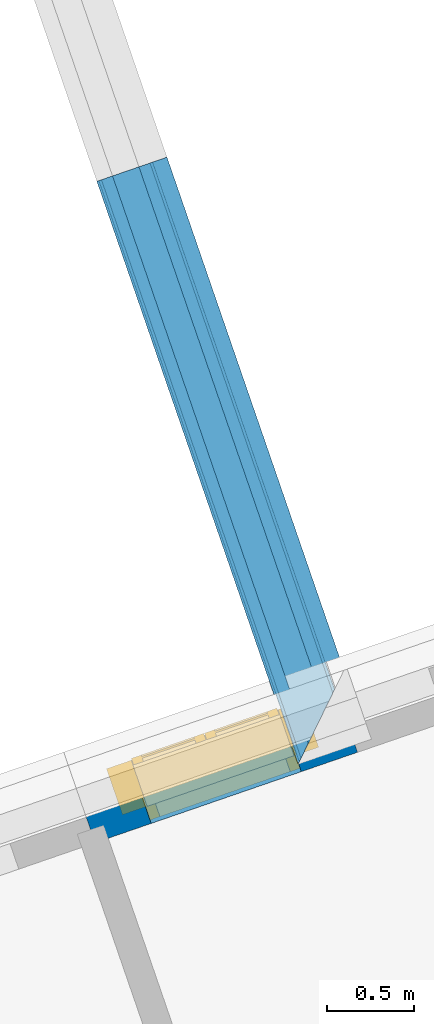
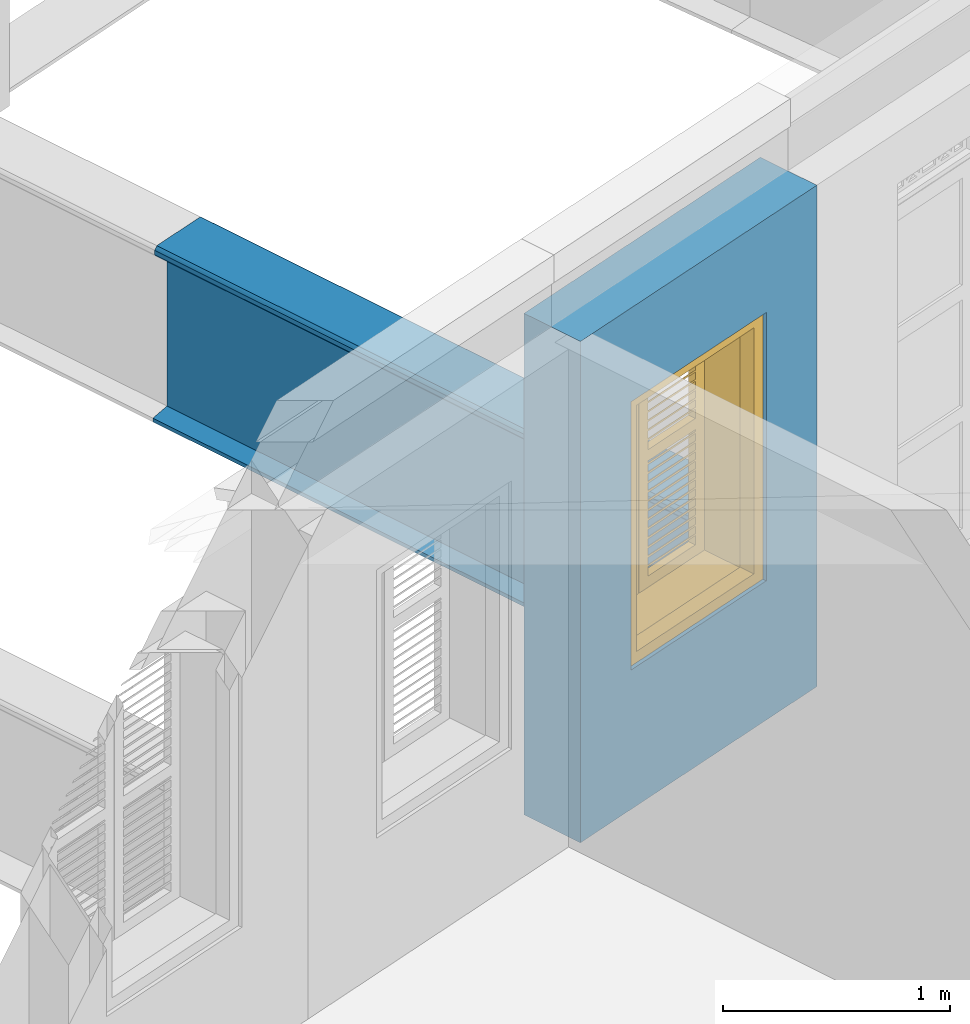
# One storey, part 6 of 16: 4 walls, 1 window, 1 opening.
"""IFC4 building model written with IfcOpenShell, lengths in metres."""

import ifcopenshell
import ifcopenshell.guid

model = None  # the IFC model being written
_history = None  # IfcOwnerHistory: only IFC2X3 demands one
_inside = {}  # id of a spatial element -> (the spatial element, [elements in it])
_under = {}  # id of a project, library or spatial element -> (it, [spatial elements below it])
_declared = {}  # id of a project -> (the project, [libraries it declares])
_typed = {}  # id of a type object -> (the type object, [elements of that type])
_made_of = {}  # id of a material, layer set ... -> (it, [elements and type objects made of it])


def new_model(schema):
    """Start an empty IFC model of exactly this schema.

    Asked for "IFC4X3", IfcOpenShell would pick the latest addendum, in which some entities
    have other attributes; the version numbers below select the first issue.
    IFC2X3 requires an IfcOwnerHistory on every rooted entity: one is made here for all.
    """
    global model, _history
    if schema == "IFC4X3":
        model = ifcopenshell.file(schema_version=(4, 3, 0, 0))
    else:
        model = ifcopenshell.file(schema=schema)
    _inside.clear()
    _under.clear()
    _declared.clear()
    _typed.clear()
    _made_of.clear()
    _history = None
    if model.schema == "IFC2X3":
        org = make("IfcOrganization", Name="unknown")
        user = make(
            "IfcPersonAndOrganization",
            ThePerson=make("IfcPerson", FamilyName="unknown"),
            TheOrganization=org,
        )
        app = make(
            "IfcApplication",
            ApplicationDeveloper=org,
            Version="unknown",
            ApplicationFullName="unknown",
            ApplicationIdentifier="unknown",
        )
        _history = make(
            "IfcOwnerHistory",
            OwningUser=user,
            OwningApplication=app,
            ChangeAction="ADDED",
            CreationDate=0,
        )
    return model


def make(cls, **values):
    """One entity of the class cls with the attributes given. An attribute that is None is left unset."""
    return model.create_entity(
        cls, **{name: value for name, value in values.items() if value is not None}
    )


def rooted(cls, **values):
    """An entity with a GlobalId (a new one), such as an element, a storey or a relation."""
    return make(cls, GlobalId=ifcopenshell.guid.new(), OwnerHistory=_history, **values)


def si_unit(unit_type, name, prefix=None):
    """IfcSIUnit, for example si_unit("LENGTHUNIT", "METRE", prefix="MILLI")."""
    return make("IfcSIUnit", UnitType=unit_type, Prefix=prefix, Name=name)


def assignment(units):
    """IfcUnitAssignment: the units of a project."""
    return None if units is None else make("IfcUnitAssignment", Units=units)


def point(xyz):
    """IfcCartesianPoint."""
    return None if xyz is None else make("IfcCartesianPoint", Coordinates=xyz)


def direction(xyz):
    """IfcDirection."""
    return None if xyz is None else make("IfcDirection", DirectionRatios=xyz)


def frame(location, z_axis=None, x_axis=None):
    """IfcAxis2Placement3D, a coordinate frame: its origin and axes. An axis left out is left unset."""
    return make(
        "IfcAxis2Placement3D",
        Location=point(location),
        Axis=direction(z_axis),
        RefDirection=direction(x_axis),
    )


def origin():
    """The frame at (0, 0, 0) with its axes left unset."""
    return frame((0.0, 0.0, 0.0))


def origin_with_axes():
    """The frame at (0, 0, 0) with the z axis (0, 0, 1) and the x axis (1, 0, 0) written out."""
    return frame((0.0, 0.0, 0.0), z_axis=(0.0, 0.0, 1.0), x_axis=(1.0, 0.0, 0.0))


def place(relative_to, where):
    """IfcLocalPlacement: puts the frame where relative to a parent placement (None: the world)."""
    return make(
        "IfcLocalPlacement", PlacementRelTo=relative_to, RelativePlacement=where
    )


def context(
    kind, dimensions, precision=None, world=None, true_north=None, identifier=None
):
    """IfcGeometricRepresentationContext, for example the 3D "Model" context."""
    return make(
        "IfcGeometricRepresentationContext",
        ContextIdentifier=identifier,
        ContextType=kind,
        CoordinateSpaceDimension=dimensions,
        Precision=precision,
        WorldCoordinateSystem=world,
        TrueNorth=true_north,
    )


def subcontext(parent, identifier, kind, view, scale=None):
    """IfcGeometricRepresentationSubContext, for example "Body" below "Model"."""
    return make(
        "IfcGeometricRepresentationSubContext",
        ContextIdentifier=identifier,
        ContextType=kind,
        ParentContext=parent,
        TargetScale=scale,
        TargetView=view,
    )


def project(units=None, contexts=None):
    """IfcProject with its units and contexts."""
    return rooted(
        "IfcProject",
        Name="project",
        RepresentationContexts=contexts,
        UnitsInContext=assignment(units),
    )


def spatial(cls, under=None, at=None, **own):
    """A site, building, storey or space (cls), placed at a placement, below another one or the project."""
    s = rooted(cls, ObjectPlacement=at, **own)
    if under is not None:
        _under.setdefault(under.id(), (under, []))[1].append(s)
    return s


def polyline(points):
    """IfcPolyline through the points."""
    return make("IfcPolyline", Points=[point(p) for p in points])


def outline(outer, holes=None, kind="AREA"):
    """IfcArbitraryClosedProfileDef: a profile drawn as a closed curve; with holes, ...WithVoids."""
    if holes is None:
        return make("IfcArbitraryClosedProfileDef", ProfileType=kind, OuterCurve=outer)
    return make(
        "IfcArbitraryProfileDefWithVoids",
        ProfileType=kind,
        OuterCurve=outer,
        InnerCurves=holes,
    )


def extrude(swept, where, along, depth):
    """IfcExtrudedAreaSolid: the profile swept, set in the frame where, extruded along a direction by depth."""
    return make(
        "IfcExtrudedAreaSolid",
        SweptArea=swept,
        Position=where,
        ExtrudedDirection=direction(along),
        Depth=depth,
    )


def clip(a, b, op="DIFFERENCE"):
    """IfcBooleanClippingResult: the solid a cut by the half space b."""
    return make(
        "IfcBooleanClippingResult", Operator=op, FirstOperand=a, SecondOperand=b
    )


def halfspace(plane, agree):
    """IfcHalfSpaceSolid: all space on one side of the plane z = 0 of the frame plane."""
    return make(
        "IfcHalfSpaceSolid",
        BaseSurface=make("IfcPlane", Position=plane),
        AgreementFlag=agree,
    )


def faces_of(points, faces, orient=None, outer=None):
    """IfcFace entities. A face is a list of loops; a loop is a list of indices into points, from 0.

    orient and outer hold one flag for each loop. By default every Orientation is true, the
    first loop of a face is its IfcFaceOuterBound and the others are IfcFaceBound.
    """
    made = []
    for i, loops in enumerate(faces):
        bounds = []
        for j, loop in enumerate(loops):
            is_outer = j == 0 if outer is None else outer[i][j]
            bounds.append(
                make(
                    "IfcFaceOuterBound" if is_outer else "IfcFaceBound",
                    Bound=make("IfcPolyLoop", Polygon=[points[k] for k in loop]),
                    Orientation=True if orient is None else orient[i][j],
                )
            )
        made.append(make("IfcFace", Bounds=bounds))
    return made


def faceted_brep(points, faces, orient=None, outer=None, voids=None):
    """IfcFacetedBrep: a solid bounded by flat faces; with voids (closed shells), ...WithVoids."""
    shared = [point(p) for p in points]
    hull = make("IfcClosedShell", CfsFaces=faces_of(shared, faces, orient, outer))
    if voids is None:
        return make("IfcFacetedBrep", Outer=hull)
    return make(
        "IfcFacetedBrepWithVoids",
        Outer=hull,
        Voids=[
            make(cls, CfsFaces=faces_of(shared, fs, o, b)) for cls, fs, o, b in voids
        ],
    )


def shape(context_of_items, identifier, shape_type, items):
    """IfcShapeRepresentation: the items that make up one representation, for example the "Body"."""
    return make(
        "IfcShapeRepresentation",
        ContextOfItems=context_of_items,
        RepresentationIdentifier=identifier,
        RepresentationType=shape_type,
        Items=items,
    )


def source(mapping_origin, context_of_items, identifier, shape_type, items):
    """IfcRepresentationMap: a shape defined once, which mapped items show again and again."""
    return make(
        "IfcRepresentationMap",
        MappingOrigin=mapping_origin,
        MappedRepresentation=shape(context_of_items, identifier, shape_type, items),
    )


def transform(
    local_origin,
    x_axis=None,
    y_axis=None,
    z_axis=None,
    scale=None,
    scale2=None,
    scale3=None,
    uniform=True,
):
    """IfcCartesianTransformationOperator3D, or its non-uniform kind. x_axis, y_axis, z_axis: its Axis1, 2, 3."""
    if uniform:
        return make(
            "IfcCartesianTransformationOperator3D",
            Axis1=direction(x_axis),
            Axis2=direction(y_axis),
            LocalOrigin=point(local_origin),
            Scale=scale,
            Axis3=direction(z_axis),
        )
    return make(
        "IfcCartesianTransformationOperator3DnonUniform",
        Axis1=direction(x_axis),
        Axis2=direction(y_axis),
        LocalOrigin=point(local_origin),
        Scale=scale,
        Axis3=direction(z_axis),
        Scale2=scale2,
        Scale3=scale3,
    )


def mapped(mapping_source, mapping_target):
    """IfcMappedItem: shows the shape of a source again, moved by a transform."""
    return make(
        "IfcMappedItem", MappingSource=mapping_source, MappingTarget=mapping_target
    )


def material(Name=None, Category=None):
    """IfcMaterial."""
    return make("IfcMaterial", Name=Name, Category=Category)


def layer(
    of_material, thickness, ventilated=None, Name=None, Category=None, Priority=None
):
    """IfcMaterialLayer: one layer of a wall or slab, of a material (None: an air gap)."""
    return make(
        "IfcMaterialLayer",
        Material=of_material,
        LayerThickness=thickness,
        IsVentilated=ventilated,
        Name=Name,
        Category=Category,
        Priority=Priority,
    )


def layer_set(layers, Name=None):
    """IfcMaterialLayerSet."""
    return make("IfcMaterialLayerSet", MaterialLayers=layers, LayerSetName=Name)


def layer_usage(for_layer_set, set_direction, sense, offset, extent=None):
    """IfcMaterialLayerSetUsage: how a layer set lies in its element."""
    return make(
        "IfcMaterialLayerSetUsage",
        ForLayerSet=for_layer_set,
        LayerSetDirection=set_direction,
        DirectionSense=sense,
        OffsetFromReferenceLine=offset,
        ReferenceExtent=extent,
    )


def material_profile(
    of_material, cross_section, Name=None, Category=None, Priority=None
):
    """IfcMaterialProfile: a cross section and its material."""
    return make(
        "IfcMaterialProfile",
        Name=Name,
        Material=of_material,
        Profile=cross_section,
        Priority=Priority,
        Category=Category,
    )


def profile_set(profiles, Name=None, composite=None):
    """IfcMaterialProfileSet."""
    return make(
        "IfcMaterialProfileSet",
        Name=Name,
        MaterialProfiles=profiles,
        CompositeProfile=composite,
    )


def profile_usage(for_profile_set, cardinal=None, extent=None):
    """IfcMaterialProfileSetUsage: how a profile set lies along its element."""
    return make(
        "IfcMaterialProfileSetUsage",
        ForProfileSet=for_profile_set,
        CardinalPoint=cardinal,
        ReferenceExtent=extent,
    )


def made_of(thing, what):
    """Note that an element or type object is made of a material, layer set ...; save() writes the relation."""
    if what is not None:
        _made_of.setdefault(what.id(), (what, []))[1].append(thing)
    return thing


def type_object(cls, material=None, **own):
    """A type object (cls), such as IfcWallType, which elements share."""
    return made_of(rooted(cls, **own), material)


def type_shapes(of_type, sources):
    """Give a type object the sources (RepresentationMaps) that its elements show as mapped items."""
    of_type.RepresentationMaps = sources


def element(
    cls,
    number,
    at=None,
    inside=None,
    cuts=None,
    type_object=None,
    material=None,
    context=None,
    identifier="Body",
    shape_type=None,
    held_by="IfcProductDefinitionShape",
    body=None,
    shapes=None,
    **own,
):
    """One element of the class cls, such as IfcWall. Its Tag is "e" and its number.

    at: its placement. inside: the storey or other place that contains it. cuts: it is an
    opening in that element (IfcRelVoidsElement). A single representation is given by context,
    identifier, shape_type and body (its items); several are given by shapes. held_by: the class
    of the entity that holds the representations. save() writes the other relations.
    """
    e = rooted(cls, Tag="e%d" % number, ObjectPlacement=at, **own)
    if body is not None:
        shapes = [shape(context, identifier, shape_type, body)]
    if shapes is not None:
        e.Representation = make(held_by, Representations=shapes)
    if inside is not None:
        _inside.setdefault(inside.id(), (inside, []))[1].append(e)
    if cuts is not None:
        rooted(
            "IfcRelVoidsElement", RelatingBuildingElement=cuts, RelatedOpeningElement=e
        )
    if type_object is not None:
        _typed.setdefault(type_object.id(), (type_object, []))[1].append(e)
    return made_of(e, material)


def fill(opening, filler):
    """IfcRelFillsElement: the door or window that sits in an opening."""
    return rooted(
        "IfcRelFillsElement",
        RelatingOpeningElement=opening,
        RelatedBuildingElement=filler,
    )


def aggregate(whole, parts):
    """IfcRelAggregates: a whole, such as a stair, and the parts it consists of."""
    return rooted("IfcRelAggregates", RelatingObject=whole, RelatedObjects=parts)


def save(model, path):
    """Write the relations noted so far, then the file.

    IfcRelAggregates (storeys below a building ...), IfcRelContainedInSpatialStructure (elements
    in a storey), IfcRelDefinesByType, IfcRelAssociatesMaterial and IfcRelDeclares: one each for
    every whole, place, type object, material and project.
    """
    for whole, parts in _under.values():
        aggregate(whole, parts)
    for where, things in _inside.values():
        rooted(
            "IfcRelContainedInSpatialStructure",
            RelatedElements=things,
            RelatingStructure=where,
        )
    for kind, things in _typed.values():
        rooted("IfcRelDefinesByType", RelatedObjects=things, RelatingType=kind)
    for what, things in _made_of.values():
        rooted("IfcRelAssociatesMaterial", RelatedObjects=things, RelatingMaterial=what)
    for by, libraries in _declared.values():
        rooted("IfcRelDeclares", RelatingContext=by, RelatedDefinitions=libraries)
    model.write(path)


model = new_model("IFC4")

# Units and contexts
model_context = context("Model", 3, world=origin_with_axes())
body_context = subcontext(model_context, "Body", "Model", "MODEL_VIEW")
ifc_project = project(units=[si_unit("PLANEANGLEUNIT", "RADIAN"), si_unit("MASSUNIT", "GRAM", prefix="KILO"), si_unit("FORCEUNIT", "NEWTON", prefix="KILO"), si_unit("LENGTHUNIT", "METRE"), si_unit("AREAUNIT", "SQUARE_METRE"), si_unit("VOLUMEUNIT", "CUBIC_METRE")], contexts=[model_context, model_context])

# Site, building, storey
site_placement = place(None, origin_with_axes())
site = spatial("IfcSite", under=ifc_project, at=site_placement, Name="Site plot-8", CompositionType="ELEMENT")
building_placement = place(None, origin_with_axes())
building = spatial("IfcBuilding", under=site, at=building_placement, Name="Building plot-8", CompositionType="ELEMENT")
storey_placement = place(None, frame((0.0, 0.0, 3.0), z_axis=(0.0, 0.0, 1.0), x_axis=(1.0, 0.0, 0.0)))
storey = spatial("IfcBuildingStorey", under=building, at=storey_placement, Name="plot-8 1", CompositionType="ELEMENT", Elevation=3.0)

# Wall, opening, window
ifc_material = material(Name="Masonry")
ifc_layer = layer(ifc_material, 0.33, ventilated=False)
ifc_layer_set = layer_set([ifc_layer], Name="exterior_0.08_0.25")
ifc_layer_usage = layer_usage(ifc_layer_set, "AXIS2", "POSITIVE", -0.25)
wall_type_1 = type_object("IfcWallType", Name="exterior_0.08_0.25", PredefinedType="SOLIDWALL", material=ifc_layer_set)
wall_1_placement = place(storey_placement, frame((-6.4535145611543, 16.1466785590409, 0.0), z_axis=(0.0, 0.0, 1.0), x_axis=(-0.945331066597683, -0.32611221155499, 0.0)))
wall_1 = element("IfcWall", 1, at=wall_1_placement, inside=storey, type_object=wall_type_1, material=ifc_layer_usage, Name="exterior", context=body_context, shape_type="SweptSolid", body=[
    extrude(outline(polyline([(-9.38401318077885e-16, 0.0799999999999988), (2.06922068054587e-15, -0.249999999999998), (1.59094601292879, -0.25), (1.59094601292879, 0.0800000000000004), (-9.38401318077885e-16, 0.0799999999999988)])), origin_with_axes(), (0.0, 0.0, 1.0), 2.7),
])
opening_placement = place(wall_1_placement, frame((0.340473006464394, 0.0, 0.75)))
opening = element("IfcOpeningElement", 2, at=opening_placement, cuts=wall_1, Name="My Opening", ObjectType="Opening", context=body_context, shape_type="SweptSolid", body=[
    extrude(outline(polyline([(0.0, -0.269999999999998), (0.909999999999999, -0.270000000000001), (0.909999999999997, 1.1), (-1.83186799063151e-15, 1.1), (0.0, -0.269999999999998)])), origin_with_axes(), (0.0, 0.0, 1.0), 1.445),
])
window_type = type_object("IfcWindowType", Name="shuttered_shorter", PartitioningType="DOUBLE_PANEL_HORIZONTAL", PredefinedType="NOTDEFINED")
shared_shape = source(origin(), body_context, "Body", "Brep", [
    faceted_brep([(0.393, 0.0, 0.622), (0.074, 0.0, 0.622), (0.074, 0.0, 0.632), (0.393, 0.0, 0.632), (0.074, -0.04, 0.592), (0.393, -0.04, 0.592), (0.393, -0.04, 0.582), (0.074, -0.04, 0.582), (0.517, 0.0, 0.682), (0.836, 0.0, 0.682), (0.836, 0.0, 0.672), (0.517, 0.0, 0.672), (0.517, -0.04, 0.642), (0.836, -0.04, 0.642), (0.836, -0.04, 0.632), (0.517, -0.04, 0.632), (0.517, 0.0, 0.632), (0.836, 0.0, 0.632), (0.836, 0.0, 0.622), (0.517, 0.0, 0.622), (0.517, -0.04, 0.592), (0.836, -0.04, 0.592), (0.836, -0.04, 0.582), (0.517, -0.04, 0.582), (0.517, 0.0, 0.232), (0.836, 0.0, 0.232), (0.836, 0.0, 0.222), (0.517, 0.0, 0.222), (0.517, -0.04, 0.192), (0.836, -0.04, 0.192), (0.836, -0.04, 0.182), (0.517, -0.04, 0.182), (0.517, 0.0, 0.532), (0.836, 0.0, 0.532), (0.836, 0.0, 0.522), (0.517, 0.0, 0.522), (0.517, -0.04, 0.492), (0.836, -0.04, 0.492), (0.836, -0.04, 0.482), (0.517, -0.04, 0.482), (0.517, 0.0, 0.482), (0.836, 0.0, 0.482), (0.836, 0.0, 0.472), (0.517, 0.0, 0.472), (0.517, -0.04, 0.442), (0.836, -0.04, 0.442), (0.836, -0.04, 0.432), (0.517, -0.04, 0.432), (0.517, 0.0, 0.582), (0.836, 0.0, 0.582), (0.836, 0.0, 0.572), (0.517, 0.0, 0.572), (0.517, -0.04, 0.542), (0.836, -0.04, 0.542), (0.836, -0.04, 0.532), (0.517, -0.04, 0.532), (0.517, 0.0, 0.182), (0.836, 0.0, 0.182), (0.836, 0.0, 0.172), (0.517, 0.0, 0.172), (0.517, -0.04, 0.142), (0.836, -0.04, 0.142), (0.836, -0.04, 0.132), (0.517, -0.04, 0.132), (0.517, 0.0, 0.382), (0.836, 0.0, 0.382), (0.836, 0.0, 0.372), (0.517, 0.0, 0.372), (0.517, -0.04, 0.342), (0.836, -0.04, 0.342), (0.836, -0.04, 0.332), (0.517, -0.04, 0.332), (0.517, 0.0, 0.432), (0.836, 0.0, 0.432), (0.836, 0.0, 0.422), (0.517, 0.0, 0.422), (0.517, -0.04, 0.392), (0.836, -0.04, 0.392), (0.836, -0.04, 0.382), (0.517, -0.04, 0.382), (0.517, 0.0, 0.132), (0.836, 0.0, 0.132), (0.836, 0.0, 0.122), (0.517, 0.0, 0.122), (0.517, -0.04, 0.092), (0.836, -0.04, 0.092), (0.836, -0.04, 0.082), (0.517, -0.04, 0.082), (0.517, 0.0, 0.282), (0.836, 0.0, 0.282), (0.836, 0.0, 0.272), (0.517, 0.0, 0.272), (0.517, -0.04, 0.242), (0.836, -0.04, 0.242), (0.836, -0.04, 0.232), (0.517, -0.04, 0.232), (0.517, 0.0, 0.332), (0.836, 0.0, 0.332), (0.836, 0.0, 0.322), (0.517, 0.0, 0.322), (0.517, -0.04, 0.292), (0.836, -0.04, 0.292), (0.836, -0.04, 0.282), (0.517, -0.04, 0.282), (0.517, 0.0, 1.362667), (0.836, 0.0, 1.362667), (0.836, 0.0, 1.352667), (0.517, 0.0, 1.352667), (0.517, -0.04, 1.322667), (0.836, -0.04, 1.322667), (0.836, -0.04, 1.312667), (0.517, -0.04, 1.312667), (0.517, 0.0, 1.312667), (0.836, 0.0, 1.312667), (0.836, 0.0, 1.302667), (0.517, 0.0, 1.302667), (0.517, -0.04, 1.272667), (0.836, -0.04, 1.272667), (0.836, -0.04, 1.262667), (0.517, -0.04, 1.262667), (0.517, 0.0, 0.912667), (0.836, 0.0, 0.912667), (0.836, 0.0, 0.902667), (0.517, 0.0, 0.902667), (0.517, -0.04, 0.872667), (0.836, -0.04, 0.872667), (0.836, -0.04, 0.862667), (0.517, -0.04, 0.862667), (0.517, 0.0, 1.212667), (0.836, 0.0, 1.212667), (0.836, 0.0, 1.202667), (0.517, 0.0, 1.202667), (0.517, -0.04, 1.172667), (0.836, -0.04, 1.172667), (0.836, -0.04, 1.162667), (0.517, -0.04, 1.162667), (0.517, 0.0, 1.162667), (0.836, 0.0, 1.162667), (0.836, 0.0, 1.152667), (0.517, 0.0, 1.152667), (0.517, -0.04, 1.122667), (0.836, -0.04, 1.122667), (0.836, -0.04, 1.112667), (0.517, -0.04, 1.112667), (0.517, 0.0, 1.262667), (0.836, 0.0, 1.262667), (0.836, 0.0, 1.252667), (0.517, 0.0, 1.252667), (0.517, -0.04, 1.222667), (0.836, -0.04, 1.222667), (0.836, -0.04, 1.212667), (0.517, -0.04, 1.212667), (0.517, 0.0, 0.862667), (0.836, 0.0, 0.862667), (0.836, 0.0, 0.852667), (0.517, 0.0, 0.852667), (0.517, -0.04, 0.822667), (0.836, -0.04, 0.822667), (0.836, -0.04, 0.812667), (0.517, -0.04, 0.812667), (0.517, 0.0, 1.062667), (0.836, 0.0, 1.062667), (0.836, 0.0, 1.052667), (0.517, 0.0, 1.052667), (0.517, -0.04, 1.022667), (0.836, -0.04, 1.022667), (0.836, -0.04, 1.012667), (0.517, -0.04, 1.012667), (0.517, 0.0, 1.112667), (0.836, 0.0, 1.112667), (0.836, 0.0, 1.102667), (0.517, 0.0, 1.102667), (0.517, -0.04, 1.072667), (0.836, -0.04, 1.072667), (0.836, -0.04, 1.062667), (0.517, -0.04, 1.062667), (0.517, 0.0, 0.812667), (0.836, 0.0, 0.812667), (0.836, 0.0, 0.802667), (0.517, 0.0, 0.802667), (0.517, -0.04, 0.772667), (0.836, -0.04, 0.772667), (0.836, -0.04, 0.762667), (0.517, -0.04, 0.762667), (0.517, 0.0, 0.962667), (0.836, 0.0, 0.962667), (0.836, 0.0, 0.952667), (0.517, 0.0, 0.952667), (0.517, -0.04, 0.922667), (0.836, -0.04, 0.922667), (0.836, -0.04, 0.912667), (0.517, -0.04, 0.912667), (0.517, 0.0, 1.012667), (0.836, 0.0, 1.012667), (0.836, 0.0, 1.002667), (0.517, 0.0, 1.002667), (0.517, -0.04, 0.972667), (0.836, -0.04, 0.972667), (0.836, -0.04, 0.962667), (0.517, -0.04, 0.962667), (0.074, 0.0, 0.682), (0.393, 0.0, 0.682), (0.393, 0.0, 0.672), (0.074, 0.0, 0.672), (0.074, -0.04, 0.642), (0.393, -0.04, 0.642), (0.393, -0.04, 0.632), (0.074, -0.04, 0.632), (0.074, 0.0, 0.232), (0.393, 0.0, 0.232), (0.393, 0.0, 0.222), (0.074, 0.0, 0.222), (0.074, -0.04, 0.192), (0.393, -0.04, 0.192), (0.393, -0.04, 0.182), (0.074, -0.04, 0.182), (0.074, 0.0, 0.532), (0.393, 0.0, 0.532), (0.393, 0.0, 0.522), (0.074, 0.0, 0.522), (0.074, -0.04, 0.492), (0.393, -0.04, 0.492), (0.393, -0.04, 0.482), (0.074, -0.04, 0.482), (0.074, 0.0, 0.482), (0.393, 0.0, 0.482), (0.393, 0.0, 0.472), (0.074, 0.0, 0.472), (0.074, -0.04, 0.442), (0.393, -0.04, 0.442), (0.393, -0.04, 0.432), (0.074, -0.04, 0.432), (0.074, 0.0, 0.582), (0.393, 0.0, 0.582), (0.393, 0.0, 0.572), (0.074, 0.0, 0.572), (0.074, -0.04, 0.542), (0.393, -0.04, 0.542), (0.393, -0.04, 0.532), (0.074, -0.04, 0.532), (0.074, 0.0, 0.182), (0.393, 0.0, 0.182), (0.393, 0.0, 0.172), (0.074, 0.0, 0.172), (0.074, -0.04, 0.142), (0.393, -0.04, 0.142), (0.393, -0.04, 0.132), (0.074, -0.04, 0.132), (0.074, 0.0, 0.382), (0.393, 0.0, 0.382), (0.393, 0.0, 0.372), (0.074, 0.0, 0.372), (0.074, -0.04, 0.342), (0.393, -0.04, 0.342), (0.393, -0.04, 0.332), (0.074, -0.04, 0.332), (0.074, 0.0, 0.432), (0.393, 0.0, 0.432), (0.393, 0.0, 0.422), (0.074, 0.0, 0.422), (0.074, -0.04, 0.392), (0.393, -0.04, 0.392), (0.393, -0.04, 0.382), (0.074, -0.04, 0.382), (0.074, 0.0, 0.132), (0.393, 0.0, 0.132), (0.393, 0.0, 0.122), (0.074, 0.0, 0.122), (0.074, -0.04, 0.092), (0.393, -0.04, 0.092), (0.393, -0.04, 0.082), (0.074, -0.04, 0.082), (0.074, 0.0, 0.282), (0.393, 0.0, 0.282), (0.393, 0.0, 0.272), (0.074, 0.0, 0.272), (0.074, -0.04, 0.242), (0.393, -0.04, 0.242), (0.393, -0.04, 0.232), (0.074, -0.04, 0.232), (0.074, 0.0, 0.332), (0.393, 0.0, 0.332), (0.393, 0.0, 0.322), (0.074, 0.0, 0.322), (0.074, -0.04, 0.292), (0.393, -0.04, 0.292), (0.393, -0.04, 0.282), (0.074, -0.04, 0.282), (0.074, 0.0, 1.362667), (0.393, 0.0, 1.362667), (0.393, 0.0, 1.352667), (0.074, 0.0, 1.352667), (0.074, -0.04, 1.322667), (0.393, -0.04, 1.322667), (0.393, -0.04, 1.312667), (0.074, -0.04, 1.312667), (0.074, 0.0, 1.312667), (0.393, 0.0, 1.312667), (0.393, 0.0, 1.302667), (0.074, 0.0, 1.302667), (0.074, -0.04, 1.272667), (0.393, -0.04, 1.272667), (0.393, -0.04, 1.262667), (0.074, -0.04, 1.262667), (0.074, 0.0, 0.912667), (0.393, 0.0, 0.912667), (0.393, 0.0, 0.902667), (0.074, 0.0, 0.902667), (0.074, -0.04, 0.872667), (0.393, -0.04, 0.872667), (0.393, -0.04, 0.862667), (0.074, -0.04, 0.862667), (0.074, 0.0, 1.212667), (0.393, 0.0, 1.212667), (0.393, 0.0, 1.202667), (0.074, 0.0, 1.202667), (0.074, -0.04, 1.172667), (0.393, -0.04, 1.172667), (0.393, -0.04, 1.162667), (0.074, -0.04, 1.162667), (0.074, 0.0, 1.162667), (0.393, 0.0, 1.162667), (0.393, 0.0, 1.152667), (0.074, 0.0, 1.152667), (0.074, -0.04, 1.122667), (0.393, -0.04, 1.122667), (0.393, -0.04, 1.112667), (0.074, -0.04, 1.112667), (0.074, 0.0, 1.262667), (0.393, 0.0, 1.262667), (0.393, 0.0, 1.252667), (0.074, 0.0, 1.252667), (0.074, -0.04, 1.222667), (0.393, -0.04, 1.222667), (0.393, -0.04, 1.212667), (0.074, -0.04, 1.212667), (0.074, 0.0, 0.862667), (0.393, 0.0, 0.862667), (0.393, 0.0, 0.852667), (0.074, 0.0, 0.852667), (0.074, -0.04, 0.822667), (0.393, -0.04, 0.822667), (0.393, -0.04, 0.812667), (0.074, -0.04, 0.812667), (0.074, 0.0, 1.062667), (0.393, 0.0, 1.062667), (0.393, 0.0, 1.052667), (0.074, 0.0, 1.052667), (0.074, -0.04, 1.022667), (0.393, -0.04, 1.022667), (0.393, -0.04, 1.012667), (0.074, -0.04, 1.012667), (0.074, 0.0, 1.112667), (0.393, 0.0, 1.112667), (0.393, 0.0, 1.102667), (0.074, 0.0, 1.102667), (0.074, -0.04, 1.072667), (0.393, -0.04, 1.072667), (0.393, -0.04, 1.062667), (0.074, -0.04, 1.062667), (0.074, 0.0, 0.812667), (0.393, 0.0, 0.812667), (0.393, 0.0, 0.802667), (0.074, 0.0, 0.802667), (0.074, -0.04, 0.772667), (0.393, -0.04, 0.772667), (0.393, -0.04, 0.762667), (0.074, -0.04, 0.762667), (0.074, 0.0, 0.962667), (0.393, 0.0, 0.962667), (0.393, 0.0, 0.952667), (0.074, 0.0, 0.952667), (0.074, -0.04, 0.922667), (0.393, -0.04, 0.922667), (0.393, -0.04, 0.912667), (0.074, -0.04, 0.912667), (0.074, 0.0, 1.012667), (0.393, 0.0, 1.012667), (0.393, 0.0, 1.002667), (0.074, 0.0, 1.002667), (0.074, -0.04, 0.972667), (0.393, -0.04, 0.972667), (0.393, -0.04, 0.962667), (0.074, -0.04, 0.962667), (0.517, -0.04, 0.072), (0.457, -0.04, 0.012), (0.896, -0.04, 0.012), (0.836, -0.04, 0.072), (0.457, -0.04, 0.692667), (0.517, -0.04, 0.692667), (0.457, 0.0, 0.012), (0.896, 0.0, 0.012), (0.836, -0.04, 0.692667), (0.896, -0.04, 0.692667), (0.836, 0.0, 0.072), (0.517, 0.0, 0.072), (0.457, 0.0, 0.692667), (0.517, 0.0, 0.692667), (0.517, -0.04, 0.752666), (0.457, -0.04, 0.752666), (0.896, 0.0, 0.692667), (0.836, 0.0, 0.692667), (0.836, -0.04, 0.752666), (0.896, -0.04, 0.752666), (0.457, 0.0, 0.752666), (0.457, -0.04, 1.433333), (0.517, -0.04, 1.373333), (0.896, 0.0, 0.752666), (0.836, -0.04, 1.373333), (0.896, -0.04, 1.433333), (0.457, 0.0, 1.433333), (0.517, 0.0, 0.752666), (0.836, 0.0, 0.752666), (0.517, 0.0, 1.373333), (0.896, 0.0, 1.433333), (0.836, 0.0, 1.373333), (0.074, -0.04, 0.072), (0.014, -0.04, 0.012), (0.453, -0.04, 0.012), (0.393, -0.04, 0.072), (0.014, -0.04, 0.692667), (0.074, -0.04, 0.692667), (0.014, 0.0, 0.012), (0.453, 0.0, 0.012), (0.393, -0.04, 0.692667), (0.453, -0.04, 0.692667), (0.393, 0.0, 0.072), (0.074, 0.0, 0.072), (0.014, 0.0, 0.692667), (0.074, 0.0, 0.692667), (0.074, -0.04, 0.752666), (0.014, -0.04, 0.752666), (0.453, 0.0, 0.692667), (0.393, 0.0, 0.692667), (0.393, -0.04, 0.752666), (0.453, -0.04, 0.752666), (0.014, 0.0, 0.752666), (0.014, -0.04, 1.433333), (0.074, -0.04, 1.373333), (0.453, 0.0, 0.752666), (0.393, -0.04, 1.373333), (0.453, -0.04, 1.433333), (0.014, 0.0, 1.433333), (0.074, 0.0, 0.752666), (0.393, 0.0, 0.752666), (0.074, 0.0, 1.373333), (0.453, 0.0, 1.433333), (0.393, 0.0, 1.373333), (0.0, 0.33, 1.445), (0.91, 0.33, 1.445), (0.85, 0.33, 1.385), (0.06, 0.33, 1.385), (0.91, 0.25, 1.445), (0.0, 0.25, 1.445), (0.91, 0.25, 1.445), (0.85, 0.33, 0.06), (0.91, 0.33, 0.0), (0.85, 0.25, 1.385), (0.06, 0.25, 1.385), (0.0, 0.33, 0.0), (0.06, 0.33, 0.06), (0.0, 0.25, 0.0), (0.91, 0.25, 0.0), (0.85, 0.25, 0.06), (0.06, 0.25, 0.06), (1.05, 0.25, 1.585), (-0.14, 0.25, 1.585), (-0.14, -0.03, 1.585), (1.05, -0.03, 1.585), (0.9, -0.03, 1.435), (0.01, -0.03, 1.435), (0.01, 0.25, 1.435), (0.9, 0.25, 1.435), (0.9, 0.25, 0.01), (0.9, -0.03, 0.01), (1.05, -0.03, -0.14), (1.05, 0.25, -0.14), (0.01, -0.03, 0.01), (0.01, 0.25, 0.01), (-0.14, -0.03, -0.14), (-0.14, 0.25, -0.14)], [[[0, 1, 2, 3]], [[4, 5, 3, 2]], [[5, 6, 0, 3]], [[1, 0, 6, 7]], [[2, 1, 7, 4]], [[5, 4, 7, 6]], [[8, 9, 10, 11]], [[12, 13, 9, 8]], [[13, 14, 10, 9]], [[14, 15, 11, 10]], [[15, 12, 8, 11]], [[13, 12, 15, 14]], [[16, 17, 18, 19]], [[20, 21, 17, 16]], [[21, 22, 18, 17]], [[22, 23, 19, 18]], [[23, 20, 16, 19]], [[21, 20, 23, 22]], [[24, 25, 26, 27]], [[28, 29, 25, 24]], [[29, 30, 26, 25]], [[30, 31, 27, 26]], [[31, 28, 24, 27]], [[29, 28, 31, 30]], [[32, 33, 34, 35]], [[36, 37, 33, 32]], [[37, 38, 34, 33]], [[38, 39, 35, 34]], [[39, 36, 32, 35]], [[37, 36, 39, 38]], [[40, 41, 42, 43]], [[44, 45, 41, 40]], [[45, 46, 42, 41]], [[46, 47, 43, 42]], [[47, 44, 40, 43]], [[45, 44, 47, 46]], [[48, 49, 50, 51]], [[52, 53, 49, 48]], [[53, 54, 50, 49]], [[54, 55, 51, 50]], [[55, 52, 48, 51]], [[53, 52, 55, 54]], [[56, 57, 58, 59]], [[60, 61, 57, 56]], [[61, 62, 58, 57]], [[62, 63, 59, 58]], [[63, 60, 56, 59]], [[61, 60, 63, 62]], [[64, 65, 66, 67]], [[68, 69, 65, 64]], [[69, 70, 66, 65]], [[70, 71, 67, 66]], [[71, 68, 64, 67]], [[69, 68, 71, 70]], [[72, 73, 74, 75]], [[76, 77, 73, 72]], [[77, 78, 74, 73]], [[78, 79, 75, 74]], [[79, 76, 72, 75]], [[77, 76, 79, 78]], [[80, 81, 82, 83]], [[84, 85, 81, 80]], [[85, 86, 82, 81]], [[86, 87, 83, 82]], [[87, 84, 80, 83]], [[85, 84, 87, 86]], [[88, 89, 90, 91]], [[92, 93, 89, 88]], [[93, 94, 90, 89]], [[94, 95, 91, 90]], [[95, 92, 88, 91]], [[93, 92, 95, 94]], [[96, 97, 98, 99]], [[100, 101, 97, 96]], [[101, 102, 98, 97]], [[102, 103, 99, 98]], [[103, 100, 96, 99]], [[101, 100, 103, 102]], [[104, 105, 106, 107]], [[108, 109, 105, 104]], [[109, 110, 106, 105]], [[110, 111, 107, 106]], [[111, 108, 104, 107]], [[109, 108, 111, 110]], [[112, 113, 114, 115]], [[116, 117, 113, 112]], [[117, 118, 114, 113]], [[118, 119, 115, 114]], [[119, 116, 112, 115]], [[117, 116, 119, 118]], [[120, 121, 122, 123]], [[124, 125, 121, 120]], [[125, 126, 122, 121]], [[126, 127, 123, 122]], [[127, 124, 120, 123]], [[125, 124, 127, 126]], [[128, 129, 130, 131]], [[132, 133, 129, 128]], [[133, 134, 130, 129]], [[134, 135, 131, 130]], [[135, 132, 128, 131]], [[133, 132, 135, 134]], [[136, 137, 138, 139]], [[140, 141, 137, 136]], [[141, 142, 138, 137]], [[142, 143, 139, 138]], [[139, 143, 140, 136]], [[141, 140, 143, 142]], [[144, 145, 146, 147]], [[148, 149, 145, 144]], [[149, 150, 146, 145]], [[150, 151, 147, 146]], [[151, 148, 144, 147]], [[149, 148, 151, 150]], [[152, 153, 154, 155]], [[156, 157, 153, 152]], [[157, 158, 154, 153]], [[158, 159, 155, 154]], [[159, 156, 152, 155]], [[157, 156, 159, 158]], [[160, 161, 162, 163]], [[164, 165, 161, 160]], [[165, 166, 162, 161]], [[166, 167, 163, 162]], [[167, 164, 160, 163]], [[165, 164, 167, 166]], [[168, 169, 170, 171]], [[172, 173, 169, 168]], [[173, 174, 170, 169]], [[174, 175, 171, 170]], [[175, 172, 168, 171]], [[173, 172, 175, 174]], [[176, 177, 178, 179]], [[180, 181, 177, 176]], [[181, 182, 178, 177]], [[182, 183, 179, 178]], [[183, 180, 176, 179]], [[181, 180, 183, 182]], [[184, 185, 186, 187]], [[188, 189, 185, 184]], [[189, 190, 186, 185]], [[190, 191, 187, 186]], [[191, 188, 184, 187]], [[189, 188, 191, 190]], [[192, 193, 194, 195]], [[196, 197, 193, 192]], [[197, 198, 194, 193]], [[198, 199, 195, 194]], [[199, 196, 192, 195]], [[197, 196, 199, 198]], [[200, 201, 202, 203]], [[204, 205, 201, 200]], [[205, 206, 202, 201]], [[206, 207, 203, 202]], [[207, 204, 200, 203]], [[205, 204, 207, 206]], [[208, 209, 210, 211]], [[212, 213, 209, 208]], [[213, 214, 210, 209]], [[214, 215, 211, 210]], [[215, 212, 208, 211]], [[213, 212, 215, 214]], [[216, 217, 218, 219]], [[220, 221, 217, 216]], [[221, 222, 218, 217]], [[222, 223, 219, 218]], [[223, 220, 216, 219]], [[221, 220, 223, 222]], [[224, 225, 226, 227]], [[228, 229, 225, 224]], [[229, 230, 226, 225]], [[230, 231, 227, 226]], [[231, 228, 224, 227]], [[229, 228, 231, 230]], [[232, 233, 234, 235]], [[236, 237, 233, 232]], [[237, 238, 234, 233]], [[238, 239, 235, 234]], [[239, 236, 232, 235]], [[237, 236, 239, 238]], [[240, 241, 242, 243]], [[244, 245, 241, 240]], [[245, 246, 242, 241]], [[246, 247, 243, 242]], [[247, 244, 240, 243]], [[245, 244, 247, 246]], [[248, 249, 250, 251]], [[252, 253, 249, 248]], [[253, 254, 250, 249]], [[254, 255, 251, 250]], [[255, 252, 248, 251]], [[253, 252, 255, 254]], [[256, 257, 258, 259]], [[260, 261, 257, 256]], [[261, 262, 258, 257]], [[262, 263, 259, 258]], [[263, 260, 256, 259]], [[261, 260, 263, 262]], [[264, 265, 266, 267]], [[268, 269, 265, 264]], [[269, 270, 266, 265]], [[270, 271, 267, 266]], [[271, 268, 264, 267]], [[269, 268, 271, 270]], [[272, 273, 274, 275]], [[276, 277, 273, 272]], [[277, 278, 274, 273]], [[278, 279, 275, 274]], [[279, 276, 272, 275]], [[277, 276, 279, 278]], [[280, 281, 282, 283]], [[284, 285, 281, 280]], [[285, 286, 282, 281]], [[286, 287, 283, 282]], [[287, 284, 280, 283]], [[285, 284, 287, 286]], [[288, 289, 290, 291]], [[292, 293, 289, 288]], [[293, 294, 290, 289]], [[294, 295, 291, 290]], [[295, 292, 288, 291]], [[293, 292, 295, 294]], [[296, 297, 298, 299]], [[300, 301, 297, 296]], [[301, 302, 298, 297]], [[302, 303, 299, 298]], [[303, 300, 296, 299]], [[301, 300, 303, 302]], [[304, 305, 306, 307]], [[308, 309, 305, 304]], [[309, 310, 306, 305]], [[310, 311, 307, 306]], [[311, 308, 304, 307]], [[309, 308, 311, 310]], [[312, 313, 314, 315]], [[316, 317, 313, 312]], [[317, 318, 314, 313]], [[318, 319, 315, 314]], [[319, 316, 312, 315]], [[317, 316, 319, 318]], [[320, 321, 322, 323]], [[324, 325, 321, 320]], [[325, 326, 322, 321]], [[326, 327, 323, 322]], [[327, 324, 320, 323]], [[325, 324, 327, 326]], [[328, 329, 330, 331]], [[332, 333, 329, 328]], [[333, 334, 330, 329]], [[334, 335, 331, 330]], [[335, 332, 328, 331]], [[333, 332, 335, 334]], [[336, 337, 338, 339]], [[340, 341, 337, 336]], [[341, 342, 338, 337]], [[342, 343, 339, 338]], [[343, 340, 336, 339]], [[341, 340, 343, 342]], [[344, 345, 346, 347]], [[348, 349, 345, 344]], [[349, 350, 346, 345]], [[350, 351, 347, 346]], [[351, 348, 344, 347]], [[349, 348, 351, 350]], [[352, 353, 354, 355]], [[356, 357, 353, 352]], [[357, 358, 354, 353]], [[358, 359, 355, 354]], [[359, 356, 352, 355]], [[357, 356, 359, 358]], [[360, 361, 362, 363]], [[364, 365, 361, 360]], [[365, 366, 362, 361]], [[366, 367, 363, 362]], [[367, 364, 360, 363]], [[365, 364, 367, 366]], [[368, 369, 370, 371]], [[372, 373, 369, 368]], [[373, 374, 370, 369]], [[374, 375, 371, 370]], [[375, 372, 368, 371]], [[373, 372, 375, 374]], [[376, 377, 378, 379]], [[380, 381, 377, 376]], [[381, 382, 378, 377]], [[382, 383, 379, 378]], [[383, 380, 376, 379]], [[381, 380, 383, 382]], [[384, 385, 386, 387]], [[388, 385, 384, 389]], [[390, 391, 386, 385]], [[392, 387, 386, 393]], [[384, 387, 394, 395]], [[390, 385, 388, 396]], [[389, 384, 395, 397]], [[389, 398, 399, 388]], [[390, 395, 394, 391]], [[400, 393, 386, 391]], [[387, 392, 401, 394]], [[402, 392, 393, 403]], [[396, 388, 399, 404]], [[390, 396, 397, 395]], [[392, 389, 397, 401]], [[398, 389, 392, 402]], [[405, 399, 398, 406]], [[394, 401, 400, 391]], [[407, 403, 393, 400]], [[408, 402, 403, 409]], [[404, 399, 405, 410]], [[411, 397, 396, 404]], [[397, 411, 412, 401]], [[398, 402, 412, 411]], [[406, 398, 411, 413]], [[405, 406, 408, 409]], [[401, 412, 407, 400]], [[414, 409, 403, 407]], [[402, 408, 415, 412]], [[405, 409, 414, 410]], [[404, 410, 413, 411]], [[408, 406, 413, 415]], [[412, 415, 414, 407]], [[413, 410, 414, 415]], [[416, 417, 418, 419]], [[420, 417, 416, 421]], [[422, 423, 418, 417]], [[424, 419, 418, 425]], [[416, 419, 426, 427]], [[422, 417, 420, 428]], [[421, 416, 427, 429]], [[421, 430, 431, 420]], [[422, 427, 426, 423]], [[432, 425, 418, 423]], [[419, 424, 433, 426]], [[434, 424, 425, 435]], [[428, 420, 431, 436]], [[422, 428, 429, 427]], [[424, 421, 429, 433]], [[430, 421, 424, 434]], [[437, 431, 430, 438]], [[426, 433, 432, 423]], [[439, 435, 425, 432]], [[440, 434, 435, 441]], [[436, 431, 437, 442]], [[443, 429, 428, 436]], [[429, 443, 444, 433]], [[430, 434, 444, 443]], [[438, 430, 443, 445]], [[437, 438, 440, 441]], [[433, 444, 439, 432]], [[446, 441, 435, 439]], [[434, 440, 447, 444]], [[437, 441, 446, 442]], [[436, 442, 445, 443]], [[440, 438, 445, 447]], [[444, 447, 446, 439]], [[445, 442, 446, 447]], [[448, 449, 450, 451]], [[452, 449, 448]], [[448, 453, 454]], [[448, 454, 452]], [[455, 450, 449, 456]], [[451, 450, 457, 458]], [[459, 448, 451, 460]], [[448, 459, 461, 453]], [[454, 453, 458, 457]], [[462, 452, 454]], [[454, 457, 463]], [[454, 463, 462]], [[456, 449, 452, 462]], [[450, 455, 463, 457]], [[456, 459, 460, 455]], [[460, 451, 458, 464]], [[459, 456, 462, 461]], [[464, 458, 453, 461]], [[461, 462, 463, 464]], [[455, 460, 464, 463]], [[465, 466, 467, 468]], [[469, 470, 471, 472]], [[473, 474, 469, 472]], [[465, 468, 475, 476]], [[470, 477, 478, 471]], [[474, 473, 478, 477]], [[474, 477, 479, 475]], [[470, 467, 479, 477]], [[470, 469, 468, 467]], [[474, 475, 468, 469]], [[471, 478, 480, 466]], [[473, 472, 465, 476]], [[473, 476, 480, 478]], [[466, 465, 472, 471]], [[480, 476, 475, 479]], [[480, 479, 467, 466]]]),
])
type_shapes(window_type, [shared_shape])
window_placement = place(storey_placement, frame((-6.86342456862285, 16.2908855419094, 0.75), z_axis=(0.0, 0.0, 1.0), x_axis=(-0.860251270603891, -0.29676211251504, 0.0)))
window = element("IfcWindow", 3, at=window_placement, inside=storey, type_object=window_type, Name="bedroom outside window", OverallHeight=1.445, OverallWidth=0.91, context=body_context, shape_type="MappedRepresentation", body=[
    mapped(shared_shape, transform((0.0, 0.0, 0.0), scale=1.0)),
])
fill(opening, window)

# Walls
ifc_material_profile_1 = material_profile(None, outline(polyline([(0.25, 0.0), (0.25, 0.795), (0.09, 0.795), (0.09, 0.02), (-0.08, 0.02), (-0.08, 0.0), (0.25, 0.0)])))
ifc_profile_set_1 = profile_set([ifc_material_profile_1])
ifc_profile_usage_1 = profile_usage(ifc_profile_set_1)
wall_type_2 = type_object("IfcWallType", Name="parapet internal_0", PredefinedType="PARAPET", material=ifc_profile_set_1)
wall_2_placement = place(storey_placement, frame((-6.22849713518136, 15.4944001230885, 0.0), z_axis=(-0.32611221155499, 0.945331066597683, 0.0), x_axis=(-0.945331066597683, -0.32611221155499, 0.0)))
element("IfcWall", 4, at=wall_2_placement, inside=storey, type_object=wall_type_2, material=ifc_profile_usage_1, Name="parapet internal_0", context=body_context, shape_type="Clipping", body=[
    clip(clip(extrude(outline(polyline([(0.25, 0.0), (0.25, 0.795), (0.09, 0.795), (0.09, 0.02), (-0.08, 0.02), (-0.08, 0.0), (0.25, 0.0)])), origin_with_axes(), (0.0, 0.0, 1.0), 5.18982733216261), halfspace(frame((0.0, 0.0, 4.18982733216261), z_axis=(-9.60915035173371e-15, 0.0, -1.0), x_axis=(0.0, 1.0, 0.0)), True)), halfspace(frame((0.0, 0.0, 1.0), z_axis=(-0.707106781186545, 0.0, -0.707106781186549), x_axis=(0.0, 1.0, 0.0)), False)),
])
ifc_material_profile_2 = material_profile(None, outline(polyline([(0.265, 0.795), (0.268, 0.807), (0.274, 0.816), (0.283, 0.822), (0.295, 0.825), (0.295, 0.84), (0.305, 0.84), (0.317, 0.842), (0.326, 0.849), (0.333, 0.858), (0.335, 0.87), (0.333, 0.882), (0.326, 0.891), (0.317, 0.898), (0.305, 0.9), (0.035, 0.9), (0.023, 0.898), (0.014, 0.891), (0.007, 0.882), (0.005, 0.87), (0.007, 0.858), (0.014, 0.849), (0.023, 0.842), (0.035, 0.84), (0.045, 0.84), (0.045, 0.825), (0.057, 0.822), (0.066, 0.816), (0.072, 0.807), (0.075, 0.795), (0.265, 0.795)])))
ifc_profile_set_2 = profile_set([ifc_material_profile_2])
ifc_profile_usage_2 = profile_usage(ifc_profile_set_2)
wall_type_3 = type_object("IfcWallType", Name="parapet internal_1", PredefinedType="PARAPET", material=ifc_profile_set_2)
wall_3_placement = place(storey_placement, frame((-6.22849713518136, 15.4944001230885, 0.0), z_axis=(-0.32611221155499, 0.945331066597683, 0.0), x_axis=(-0.945331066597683, -0.32611221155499, 0.0)))
element("IfcWall", 5, at=wall_3_placement, inside=storey, type_object=wall_type_3, material=ifc_profile_usage_2, Name="parapet internal_1", context=body_context, shape_type="Clipping", body=[
    clip(clip(extrude(outline(polyline([(0.265, 0.795), (0.268, 0.807), (0.274, 0.816), (0.283, 0.822), (0.295, 0.825), (0.295, 0.84), (0.305, 0.84), (0.317, 0.842), (0.326, 0.849), (0.333, 0.858), (0.335, 0.87), (0.333, 0.882), (0.326, 0.891), (0.317, 0.898), (0.305, 0.9), (0.035, 0.9), (0.023, 0.898), (0.014, 0.891), (0.007, 0.882), (0.005, 0.87), (0.007, 0.858), (0.014, 0.849), (0.023, 0.842), (0.035, 0.84), (0.045, 0.84), (0.045, 0.825), (0.057, 0.822), (0.066, 0.816), (0.072, 0.807), (0.075, 0.795), (0.265, 0.795)])), origin_with_axes(), (0.0, 0.0, 1.0), 5.18982733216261), halfspace(frame((0.0, 0.0, 4.18982733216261), z_axis=(-9.60915035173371e-15, 0.0, -1.0), x_axis=(0.0, 1.0, 0.0)), True)), halfspace(frame((0.0, 0.0, 1.0), z_axis=(-0.707106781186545, 0.0, -0.707106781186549), x_axis=(0.0, 1.0, 0.0)), False)),
])
ifc_material_profile_3 = material_profile(None, outline(polyline([(0.25, -0.1), (0.265, -0.1), (0.265, -0.085), (0.278, -0.084), (0.289, -0.081), (0.301, -0.074), (0.309, -0.065), (0.315, -0.055), (0.324, -0.044), (0.334, -0.038), (0.345, -0.035), (0.345, -0.015), (0.25, 0.0), (0.25, -0.1)])))
ifc_profile_set_3 = profile_set([ifc_material_profile_3])
ifc_profile_usage_3 = profile_usage(ifc_profile_set_3)
wall_type_4 = type_object("IfcWallType", Name="parapet internal_2", PredefinedType="PARAPET", material=ifc_profile_set_3)
wall_4_placement = place(storey_placement, frame((-6.22849713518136, 15.4944001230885, 0.0), z_axis=(-0.32611221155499, 0.945331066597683, 0.0), x_axis=(-0.945331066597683, -0.32611221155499, 0.0)))
element("IfcWall", 6, at=wall_4_placement, inside=storey, type_object=wall_type_4, material=ifc_profile_usage_3, Name="parapet internal_2", context=body_context, shape_type="Clipping", body=[
    clip(clip(extrude(outline(polyline([(0.25, -0.1), (0.265, -0.1), (0.265, -0.085), (0.278, -0.084), (0.289, -0.081), (0.301, -0.074), (0.309, -0.065), (0.315, -0.055), (0.324, -0.044), (0.334, -0.038), (0.345, -0.035), (0.345, -0.015), (0.25, 0.0), (0.25, -0.1)])), origin_with_axes(), (0.0, 0.0, 1.0), 5.18982733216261), halfspace(frame((0.0, 0.0, 4.18982733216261), z_axis=(-9.60915035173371e-15, 0.0, -1.0), x_axis=(0.0, 1.0, 0.0)), True)), halfspace(frame((0.0, 0.0, 1.0), z_axis=(-0.707106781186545, 0.0, -0.707106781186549), x_axis=(0.0, 1.0, 0.0)), False)),
])

save(model, "model.ifc")
